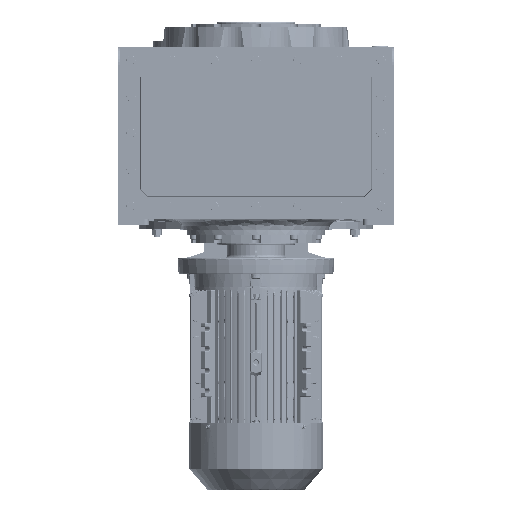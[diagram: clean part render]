
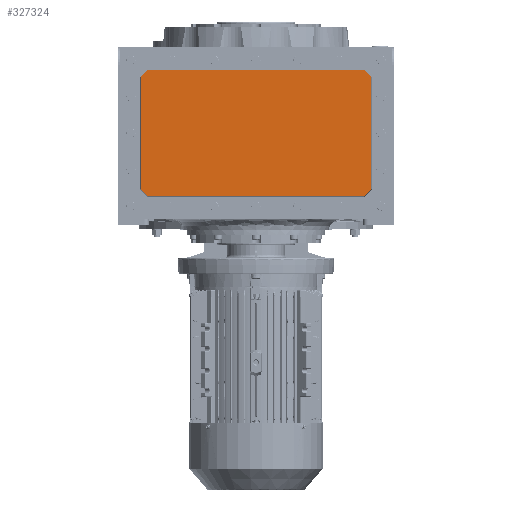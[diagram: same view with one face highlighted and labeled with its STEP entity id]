
A CAD part, front view. The second image highlights one B-rep face of the part: STEP entity #327324.
In plain terms, the highlighted planar face has unit normal (0, -1, 0).
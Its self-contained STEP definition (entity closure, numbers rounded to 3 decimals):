
#1141 = CARTESIAN_POINT ( 'NONE',  ( -207.242, -227., 291.492 ) ) ;
#10146 = LINE ( 'NONE', #19506, #10148 ) ;
#10148 = VECTOR ( 'NONE', #19744, 1000. ) ;
#10166 = VECTOR ( 'NONE', #19563, 1000. ) ;
#10185 = LINE ( 'NONE', #19497, #10166 ) ;
#10236 = LINE ( 'NONE', #19650, #10245 ) ;
#10244 = LINE ( 'NONE', #19619, #10247 ) ;
#10245 = VECTOR ( 'NONE', #19641, 1000. ) ;
#10247 = VECTOR ( 'NONE', #19636, 1000. ) ;
#10280 = LINE ( 'NONE', #1141, #10313 ) ;
#10287 = LINE ( 'NONE', #32062, #10290 ) ;
#10290 = VECTOR ( 'NONE', #32033, 1000. ) ;
#10292 = VECTOR ( 'NONE', #20222, 1000. ) ;
#10297 = LINE ( 'NONE', #20245, #10292 ) ;
#10313 = VECTOR ( 'NONE', #342553, 1000. ) ;
#10399 = LINE ( 'NONE', #32050, #10403 ) ;
#10403 = VECTOR ( 'NONE', #32039, 1000. ) ;
#19497 = CARTESIAN_POINT ( 'NONE',  ( -221.242, -227., 63.008 ) ) ;
#19506 = CARTESIAN_POINT ( 'NONE',  ( -208., -227., 49.322 ) ) ;
#19563 = DIRECTION ( 'NONE',  ( -0.707, 0., 0.707 ) ) ;
#19619 = CARTESIAN_POINT ( 'NONE',  ( 221.242, -227., 63.008 ) ) ;
#19636 = DIRECTION ( 'NONE',  ( -0.707, 0., -0.707 ) ) ;
#19641 = DIRECTION ( 'NONE',  ( 0., 0., -1. ) ) ;
#19650 = CARTESIAN_POINT ( 'NONE',  ( 220.928, -227., 278.25 ) ) ;
#19744 = DIRECTION ( 'NONE',  ( -1., 0., 0. ) ) ;
#20222 = DIRECTION ( 'NONE',  ( 1., 0., 0. ) ) ;
#20245 = CARTESIAN_POINT ( 'NONE',  ( -208., -227., 291.178 ) ) ;
#32033 = DIRECTION ( 'NONE',  ( 0., 0., 1. ) ) ;
#32039 = DIRECTION ( 'NONE',  ( 0.707, 0., -0.707 ) ) ;
#32050 = CARTESIAN_POINT ( 'NONE',  ( 207.242, -227., 291.492 ) ) ;
#32062 = CARTESIAN_POINT ( 'NONE',  ( -220.928, -227., 278.25 ) ) ;
#49701 = VERTEX_POINT ( 'NONE', #234258 ) ;
#49809 = VERTEX_POINT ( 'NONE', #236009 ) ;
#49841 = VERTEX_POINT ( 'NONE', #236606 ) ;
#49847 = VERTEX_POINT ( 'NONE', #236976 ) ;
#49849 = VERTEX_POINT ( 'NONE', #236881 ) ;
#49862 = VERTEX_POINT ( 'NONE', #236763 ) ;
#49947 = VERTEX_POINT ( 'NONE', #249486 ) ;
#49967 = VERTEX_POINT ( 'NONE', #249524 ) ;
#55849 = EDGE_CURVE ( 'NONE', #49967, #49847, #10185, .T. ) ;
#55900 = EDGE_CURVE ( 'NONE', #49862, #49967, #10146, .T. ) ;
#55944 = EDGE_CURVE ( 'NONE', #49841, #49947, #10236, .T. ) ;
#55949 = EDGE_CURVE ( 'NONE', #49947, #49862, #10244, .T. ) ;
#56187 = EDGE_CURVE ( 'NONE', #49701, #49809, #10297, .T. ) ;
#56222 = EDGE_CURVE ( 'NONE', #49849, #49701, #10280, .T. ) ;
#56365 = EDGE_CURVE ( 'NONE', #49847, #49849, #10287, .T. ) ;
#56409 = EDGE_CURVE ( 'NONE', #49809, #49841, #10399, .T. ) ;
#88994 = FACE_OUTER_BOUND ( 'NONE', #167590, .T. ) ;
#101071 = DIRECTION ( 'NONE',  ( 0., 0., -1. ) ) ;
#101139 = PLANE ( 'NONE',  #109672 ) ;
#101275 = DIRECTION ( 'NONE',  ( 0., -1., 0. ) ) ;
#101305 = CARTESIAN_POINT ( 'NONE',  ( 0., -227., 0. ) ) ;
#109672 = AXIS2_PLACEMENT_3D ( 'NONE', #101305, #101275, #101071 ) ;
#167590 = EDGE_LOOP ( 'NONE', ( #333793, #333659, #333703, #333768, #333727, #333764, #333762, #333750 ) ) ;
#234258 = CARTESIAN_POINT ( 'NONE',  ( -207.556, -227., 291.178 ) ) ;
#236009 = CARTESIAN_POINT ( 'NONE',  ( 207.556, -227., 291.178 ) ) ;
#236606 = CARTESIAN_POINT ( 'NONE',  ( 220.928, -227., 277.806 ) ) ;
#236763 = CARTESIAN_POINT ( 'NONE',  ( 207.556, -227., 49.322 ) ) ;
#236881 = CARTESIAN_POINT ( 'NONE',  ( -220.928, -227., 277.806 ) ) ;
#236976 = CARTESIAN_POINT ( 'NONE',  ( -220.928, -227., 62.694 ) ) ;
#249486 = CARTESIAN_POINT ( 'NONE',  ( 220.928, -227., 62.694 ) ) ;
#249524 = CARTESIAN_POINT ( 'NONE',  ( -207.556, -227., 49.322 ) ) ;
#327324 = ADVANCED_FACE ( 'NONE', ( #88994 ), #101139, .T. ) ;
#333659 = ORIENTED_EDGE ( 'NONE', *, *, #56409, .F. ) ;
#333703 = ORIENTED_EDGE ( 'NONE', *, *, #56187, .F. ) ;
#333727 = ORIENTED_EDGE ( 'NONE', *, *, #56365, .F. ) ;
#333750 = ORIENTED_EDGE ( 'NONE', *, *, #55949, .F. ) ;
#333762 = ORIENTED_EDGE ( 'NONE', *, *, #55900, .F. ) ;
#333764 = ORIENTED_EDGE ( 'NONE', *, *, #55849, .F. ) ;
#333768 = ORIENTED_EDGE ( 'NONE', *, *, #56222, .F. ) ;
#333793 = ORIENTED_EDGE ( 'NONE', *, *, #55944, .F. ) ;
#342553 = DIRECTION ( 'NONE',  ( 0.707, 0., 0.707 ) ) ;
